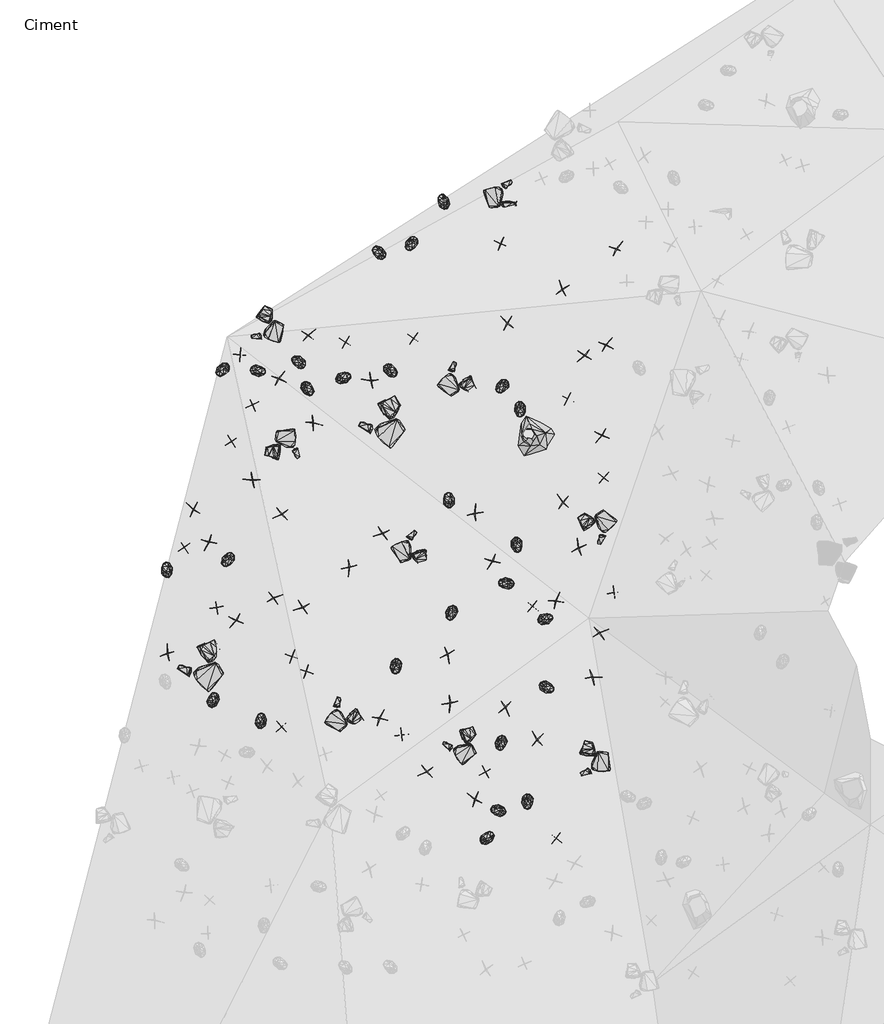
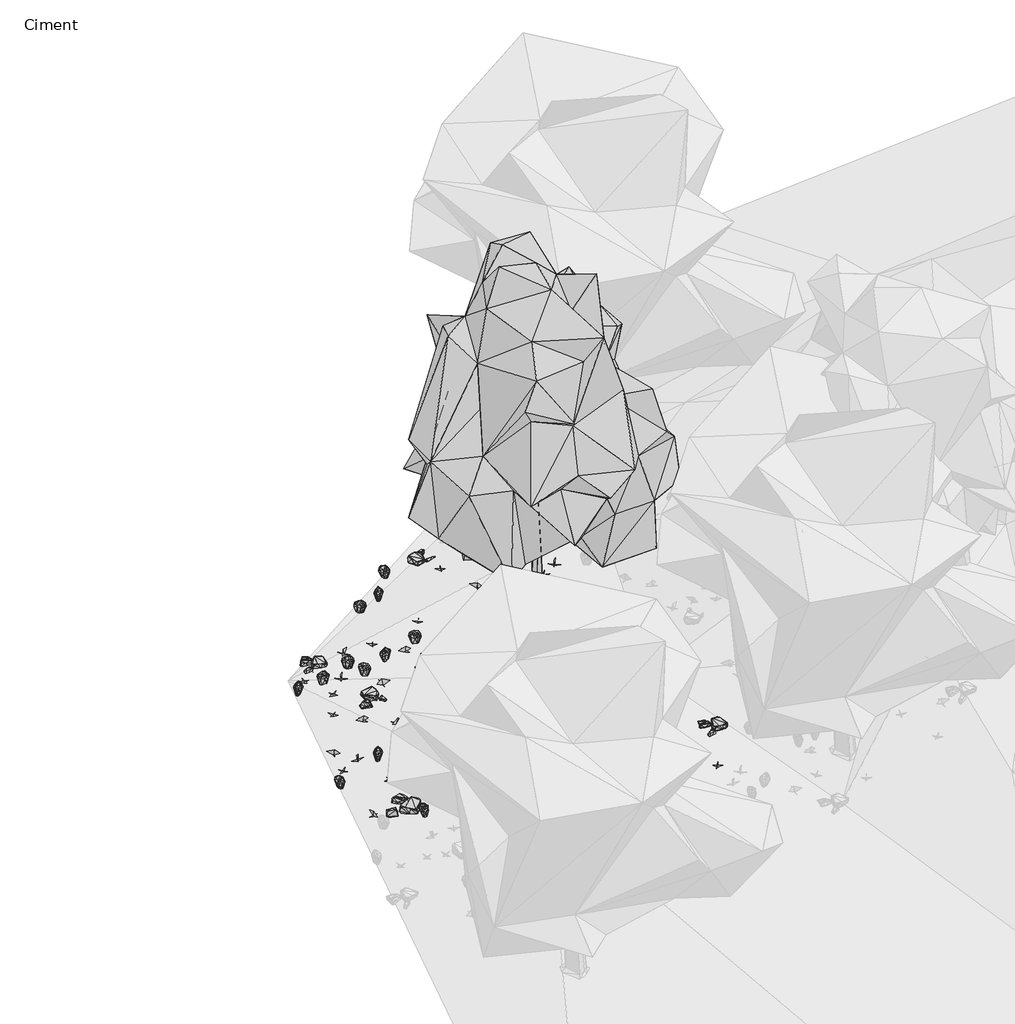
# One storey, part 20 of 30: 90 geographic elements.
"""IFC4 building model written with IfcOpenShell, lengths in millimetres."""

from ifc_helpers import new_model, si_unit, origin, place, context, project, spatial, transform, mapped, element, save
from components import enscape_assetdefinition_bush_025_fern_enscape_5718bf32, enscape_assetdefinition_bush_054_plant_09_version_2_enscape_7b546a12, enscape_assetdefinition_bush_062_plant_09_version_3_enscape_ccf8c8eb, enscape_assetdefinition_deciduous_tree_024_elm_enscape_8f9d8ef3, enscape_assetdefinition_stone_013_group_enscape_516da325, enscape_assetdefinition_stone_013_group_enscape_db9b3e91

model = new_model("IFC4")

# Units and contexts
model_context = context("Model", 3, world=origin())
ifc_project = project(units=[si_unit("LENGTHUNIT", "METRE", prefix="MILLI")], contexts=[model_context])

# Site, building, storey
site = spatial("IfcSite", under=ifc_project)
building = spatial("IfcBuilding", under=site)
storey = spatial("IfcBuildingStorey", under=building, Name="Ciment", Elevation=-1500.0)

# Geographic elements
placement = place(None, origin())
enscape_assetdefinition_bush_025_fern_enscape_shape = enscape_assetdefinition_bush_025_fern_enscape_5718bf32(model_context)
element("IfcGeographicElement", 1, ObjectType="Enscape AssetDefinition - Bush 025 Fern : Enscape AssetDefinition - Bush 025 Fern", at=placement, inside=storey, context=model_context, shape_type="MappedRepresentation", body=[
    mapped(enscape_assetdefinition_bush_025_fern_enscape_shape, transform((-19966.2132263, 5177.9174805, -2170.5815792), x_axis=(0.04909211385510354, -0.99879425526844, 0.0), y_axis=(0.99879425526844, 0.04909211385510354, 0.0), z_axis=(0.0, 0.0, 1.0))),
])
element("IfcGeographicElement", 2, ObjectType="Enscape AssetDefinition - Bush 025 Fern : Enscape AssetDefinition - Bush 025 Fern", at=placement, inside=storey, context=model_context, shape_type="MappedRepresentation", body=[
    mapped(enscape_assetdefinition_bush_025_fern_enscape_shape, transform((-18169.3611145, 2655.2200317, -2000.0), x_axis=(-0.9899264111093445, 0.14158284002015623, 0.0), y_axis=(-0.14158284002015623, -0.9899264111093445, 0.0), z_axis=(0.0, 0.0, 1.0))),
])
element("IfcGeographicElement", 3, ObjectType="Enscape AssetDefinition - Bush 025 Fern : Enscape AssetDefinition - Bush 025 Fern", at=placement, inside=storey, context=model_context, shape_type="MappedRepresentation", body=[
    mapped(enscape_assetdefinition_bush_025_fern_enscape_shape, transform((-21513.5097504, 10052.6981354, -2785.274744), x_axis=(0.7275675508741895, -0.6860360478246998, 0.0), y_axis=(0.6860360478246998, 0.7275675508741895, 0.0), z_axis=(0.0, 0.0, 1.0))),
])
element("IfcGeographicElement", 4, ObjectType="Enscape AssetDefinition - Bush 025 Fern : Enscape AssetDefinition - Bush 025 Fern", at=placement, inside=storey, context=model_context, shape_type="MappedRepresentation", body=[
    mapped(enscape_assetdefinition_bush_025_fern_enscape_shape, transform((-23983.1066132, 6885.5133057, -2998.8107681), x_axis=(-0.22570669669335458, 0.9741953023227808, 0.0), y_axis=(-0.9741953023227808, -0.22570669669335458, 0.0), z_axis=(0.0, 0.0, 1.0))),
])
element("IfcGeographicElement", 5, ObjectType="Enscape AssetDefinition - Bush 025 Fern : Enscape AssetDefinition - Bush 025 Fern", at=placement, inside=storey, context=model_context, shape_type="MappedRepresentation", body=[
    mapped(enscape_assetdefinition_bush_025_fern_enscape_shape, transform((-23165.5845642, 4595.2968597, -2642.5089836), x_axis=(0.2028222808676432, 0.9792155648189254, 0.0), y_axis=(-0.9792155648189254, 0.2028222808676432, 0.0), z_axis=(0.0, 0.0, 1.0))),
])
element("IfcGeographicElement", 6, ObjectType="Enscape AssetDefinition - Bush 025 Fern : Enscape AssetDefinition - Bush 025 Fern", at=placement, inside=storey, context=model_context, shape_type="MappedRepresentation", body=[
    mapped(enscape_assetdefinition_bush_025_fern_enscape_shape, transform((-17654.2816162, 2800.0676632, -2000.0), x_axis=(0.08820450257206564, -0.9961023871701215, 0.0), y_axis=(0.9961023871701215, 0.08820450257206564, 0.0), z_axis=(0.0, 0.0, 1.0))),
])
element("IfcGeographicElement", 7, ObjectType="Enscape AssetDefinition - Bush 025 Fern : Enscape AssetDefinition - Bush 025 Fern", at=placement, inside=storey, context=model_context, shape_type="MappedRepresentation", body=[
    mapped(enscape_assetdefinition_bush_025_fern_enscape_shape, transform((-20054.4815063, 10370.2001572, -2617.436409), x_axis=(0.8332619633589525, -0.5528783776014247, 0.0), y_axis=(0.5528783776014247, 0.8332619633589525, 0.0), z_axis=(0.0, 0.0, 1.0))),
])
element("IfcGeographicElement", 8, ObjectType="Enscape AssetDefinition - Bush 025 Fern : Enscape AssetDefinition - Bush 025 Fern", at=placement, inside=storey, context=model_context, shape_type="MappedRepresentation", body=[
    mapped(enscape_assetdefinition_bush_025_fern_enscape_shape, transform((-18030.796051, 6645.5593109, -2175.6153107), x_axis=(-0.9997258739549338, 0.023413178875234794, 0.0), y_axis=(-0.023413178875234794, -0.9997258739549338, 0.0), z_axis=(0.0, 0.0, 1.0))),
])
element("IfcGeographicElement", 9, ObjectType="Enscape AssetDefinition - Bush 025 Fern : Enscape AssetDefinition - Bush 025 Fern", at=placement, inside=storey, context=model_context, shape_type="MappedRepresentation", body=[
    mapped(enscape_assetdefinition_bush_025_fern_enscape_shape, transform((-20875.9117126, 10248.4178543, -2714.3516541), x_axis=(0.8916836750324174, 0.4526590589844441, 0.0), y_axis=(-0.4526590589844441, 0.8916836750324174, 0.0), z_axis=(0.0, 0.0, 1.0))),
])
element("IfcGeographicElement", 10, ObjectType="Enscape AssetDefinition - Bush 025 Fern : Enscape AssetDefinition - Bush 025 Fern", at=placement, inside=storey, context=model_context, shape_type="MappedRepresentation", body=[
    mapped(enscape_assetdefinition_bush_025_fern_enscape_shape, transform((-17308.8817596, 4807.1155548, -2000.0), x_axis=(0.9540241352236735, -0.29972979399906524, 0.0), y_axis=(0.29972979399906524, 0.9540241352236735, 0.0), z_axis=(0.0, 0.0, 1.0))),
])
element("IfcGeographicElement", 11, ObjectType="Enscape AssetDefinition - Bush 025 Fern : Enscape AssetDefinition - Bush 025 Fern", at=placement, inside=storey, context=model_context, shape_type="MappedRepresentation", body=[
    mapped(enscape_assetdefinition_bush_025_fern_enscape_shape, transform((-18351.2954712, 2169.511795, -2000.0), x_axis=(0.6766495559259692, 0.7363052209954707, 0.0), y_axis=(-0.7363052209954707, 0.6766495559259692, 0.0), z_axis=(0.0, 0.0, 1.0))),
])
element("IfcGeographicElement", 12, ObjectType="Enscape AssetDefinition - Bush 025 Fern : Enscape AssetDefinition - Bush 025 Fern", at=placement, inside=storey, context=model_context, shape_type="MappedRepresentation", body=[
    mapped(enscape_assetdefinition_bush_025_fern_enscape_shape, transform((-23015.2339935, 10390.6459808, -2984.2538834), x_axis=(-0.6030650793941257, -0.7976919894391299, 0.0), y_axis=(0.7976919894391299, -0.6030650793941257, 0.0), z_axis=(0.0, 0.0, 1.0))),
])
element("IfcGeographicElement", 13, ObjectType="Enscape AssetDefinition - Bush 025 Fern : Enscape AssetDefinition - Bush 025 Fern", at=placement, inside=storey, context=model_context, shape_type="MappedRepresentation", body=[
    mapped(enscape_assetdefinition_bush_025_fern_enscape_shape, transform((-18120.9049225, 3831.7372799, -2000.0), x_axis=(-0.15343056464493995, -0.9881594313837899, 0.0), y_axis=(0.9881594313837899, -0.15343056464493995, 0.0), z_axis=(0.0, 0.0, 1.0))),
])
element("IfcGeographicElement", 14, ObjectType="Enscape AssetDefinition - Bush 025 Fern : Enscape AssetDefinition - Bush 025 Fern", at=placement, inside=storey, context=model_context, shape_type="MappedRepresentation", body=[
    mapped(enscape_assetdefinition_bush_025_fern_enscape_shape, transform((-22329.460144, 4230.4344177, -2407.6538086), x_axis=(-0.07052624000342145, 0.9975099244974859, 0.0), y_axis=(-0.9975099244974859, -0.07052624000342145, 0.0), z_axis=(0.0, 0.0, 1.0))),
])
element("IfcGeographicElement", 15, ObjectType="Enscape AssetDefinition - Bush 025 Fern : Enscape AssetDefinition - Bush 025 Fern", at=placement, inside=storey, context=model_context, shape_type="MappedRepresentation", body=[
    mapped(enscape_assetdefinition_bush_025_fern_enscape_shape, transform((-22380.2375793, 10369.8368073, -2895.5817223), x_axis=(0.99706000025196, -0.0766247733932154, 0.0), y_axis=(0.0766247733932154, 0.99706000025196, 0.0), z_axis=(0.0, 0.0, 1.0))),
])
element("IfcGeographicElement", 16, ObjectType="Enscape AssetDefinition - Bush 025 Fern : Enscape AssetDefinition - Bush 025 Fern", at=placement, inside=storey, context=model_context, shape_type="MappedRepresentation", body=[
    mapped(enscape_assetdefinition_bush_025_fern_enscape_shape, transform((-17784.0480804, 9691.5569305, -2306.3952923), x_axis=(0.16694033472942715, -0.9859669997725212, 0.0), y_axis=(0.9859669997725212, 0.16694033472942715, 0.0), z_axis=(0.0, 0.0, 1.0))),
])
element("IfcGeographicElement", 17, ObjectType="Enscape AssetDefinition - Bush 025 Fern : Enscape AssetDefinition - Bush 025 Fern", at=placement, inside=storey, context=model_context, shape_type="MappedRepresentation", body=[
    mapped(enscape_assetdefinition_bush_025_fern_enscape_shape, transform((-20259.7064972, 12459.6452713, -3000.0), x_axis=(-0.7864539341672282, 0.6176489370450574, 0.0), y_axis=(-0.6176489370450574, -0.7864539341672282, 0.0), z_axis=(0.0, 0.0, 1.0))),
])
element("IfcGeographicElement", 18, ObjectType="Enscape AssetDefinition - Bush 025 Fern : Enscape AssetDefinition - Bush 025 Fern", at=placement, inside=storey, context=model_context, shape_type="MappedRepresentation", body=[
    mapped(enscape_assetdefinition_bush_025_fern_enscape_shape, transform((-19124.7825623, 13353.7740707, -2999.9995232), x_axis=(-0.500476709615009, 0.865750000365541, 0.0), y_axis=(-0.865750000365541, -0.500476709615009, 0.0), z_axis=(0.0, 0.0, 1.0))),
])
element("IfcGeographicElement", 19, ObjectType="Enscape AssetDefinition - Bush 025 Fern : Enscape AssetDefinition - Bush 025 Fern", at=placement, inside=storey, context=model_context, shape_type="MappedRepresentation", body=[
    mapped(enscape_assetdefinition_bush_025_fern_enscape_shape, transform((-19696.9680786, 12605.9465408, -2961.1406326), x_axis=(-0.45135079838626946, -0.8923466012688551, 0.0), y_axis=(0.8923466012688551, -0.45135079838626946, 0.0), z_axis=(0.0, 0.0, 1.0))),
])
element("IfcGeographicElement", 20, ObjectType="Enscape AssetDefinition - Bush 025 Fern : Enscape AssetDefinition - Bush 025 Fern", at=placement, inside=storey, context=model_context, shape_type="MappedRepresentation", body=[
    mapped(enscape_assetdefinition_bush_025_fern_enscape_shape, transform((-19027.9655457, 8106.7914963, -2393.6152458), x_axis=(-0.23654174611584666, 0.971621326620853, 0.0), y_axis=(-0.971621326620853, -0.23654174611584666, 0.0), z_axis=(0.0, 0.0, 1.0))),
])
element("IfcGeographicElement", 21, ObjectType="Enscape AssetDefinition - Bush 025 Fern : Enscape AssetDefinition - Bush 025 Fern", at=placement, inside=storey, context=model_context, shape_type="MappedRepresentation", body=[
    mapped(enscape_assetdefinition_bush_025_fern_enscape_shape, transform((-22921.4305878, 7053.2641411, -2741.9428825), x_axis=(-0.522619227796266, -0.8525662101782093, 0.0), y_axis=(0.8525662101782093, -0.522619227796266, 0.0), z_axis=(0.0, 0.0, 1.0))),
])
element("IfcGeographicElement", 22, ObjectType="Enscape AssetDefinition - Bush 025 Fern : Enscape AssetDefinition - Bush 025 Fern", at=placement, inside=storey, context=model_context, shape_type="MappedRepresentation", body=[
    mapped(enscape_assetdefinition_bush_025_fern_enscape_shape, transform((-18992.5422668, 6117.4240112, -2194.0617561), x_axis=(-0.24858450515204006, -0.9686102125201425, 0.0), y_axis=(0.9686102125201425, -0.24858450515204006, 0.0), z_axis=(0.0, 0.0, 1.0))),
])
element("IfcGeographicElement", 23, ObjectType="Enscape AssetDefinition - Bush 025 Fern : Enscape AssetDefinition - Bush 025 Fern", at=placement, inside=storey, context=model_context, shape_type="MappedRepresentation", body=[
    mapped(enscape_assetdefinition_bush_025_fern_enscape_shape, transform((-18101.9153595, 10098.2341766, -2363.1939888), x_axis=(-0.5344133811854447, -0.8452232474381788, 0.0), y_axis=(0.8452232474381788, -0.5344133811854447, 0.0), z_axis=(0.0, 0.0, 1.0))),
])
element("IfcGeographicElement", 24, ObjectType="Enscape AssetDefinition - Bush 025 Fern : Enscape AssetDefinition - Bush 025 Fern", at=placement, inside=storey, context=model_context, shape_type="MappedRepresentation", body=[
    mapped(enscape_assetdefinition_bush_025_fern_enscape_shape, transform((-17843.0099487, 7307.8050613, -2212.3680115), x_axis=(0.24585016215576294, -0.9693078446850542, 0.0), y_axis=(0.9693078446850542, 0.24585016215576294, 0.0), z_axis=(0.0, 0.0, 1.0))),
])
element("IfcGeographicElement", 25, ObjectType="Enscape AssetDefinition - Bush 025 Fern : Enscape AssetDefinition - Bush 025 Fern", at=placement, inside=storey, context=model_context, shape_type="MappedRepresentation", body=[
    mapped(enscape_assetdefinition_bush_025_fern_enscape_shape, transform((-21675.5714417, 10536.4170074, -2825.9842396), x_axis=(-0.871847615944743, 0.48977722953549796, 0.0), y_axis=(-0.48977722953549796, -0.871847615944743, 0.0), z_axis=(0.0, 0.0, 1.0))),
])
element("IfcGeographicElement", 26, ObjectType="Enscape AssetDefinition - Bush 025 Fern : Enscape AssetDefinition - Bush 025 Fern", at=placement, inside=storey, context=model_context, shape_type="MappedRepresentation", body=[
    mapped(enscape_assetdefinition_bush_025_fern_enscape_shape, transform((-17330.4710388, 6011.3844872, -2056.096077), x_axis=(0.9034495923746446, 0.42869433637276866, 0.0), y_axis=(-0.42869433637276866, 0.9034495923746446, 0.0), z_axis=(0.0, 0.0, 1.0))),
])
enscape_assetdefinition_bush_054_plant_09_version_2_enscape_shape = enscape_assetdefinition_bush_054_plant_09_version_2_enscape_7b546a12(model_context)
element("IfcGeographicElement", 27, ObjectType="Enscape AssetDefinition - Bush 054 Plant 09, Version 2 : Enscape AssetDefinition - Bush 054 Plant 09, Version 2", at=placement, inside=storey, context=model_context, shape_type="MappedRepresentation", body=[
    mapped(enscape_assetdefinition_bush_054_plant_09_version_2_enscape_shape, transform((-16939.2280579, 9884.8953247, -2209.6159458), x_axis=(-0.9217026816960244, 0.38789710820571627, 0.0), y_axis=(-0.38789710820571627, -0.9217026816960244, 0.0), z_axis=(0.0, 0.0, 1.0))),
])
element("IfcGeographicElement", 28, ObjectType="Enscape AssetDefinition - Bush 054 Plant 09, Version 2 : Enscape AssetDefinition - Bush 054 Plant 09, Version 2", at=placement, inside=storey, context=model_context, shape_type="MappedRepresentation", body=[
    mapped(enscape_assetdefinition_bush_054_plant_09_version_2_enscape_shape, transform((-23105.7071686, 6214.9586678, -2733.5138321), x_axis=(-0.21573591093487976, 0.9764517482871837, 0.0), y_axis=(-0.9764517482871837, -0.21573591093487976, 0.0), z_axis=(0.0, 0.0, 1.0))),
])
element("IfcGeographicElement", 29, ObjectType="Enscape AssetDefinition - Bush 054 Plant 09, Version 2 : Enscape AssetDefinition - Bush 054 Plant 09, Version 2", at=placement, inside=storey, context=model_context, shape_type="MappedRepresentation", body=[
    mapped(enscape_assetdefinition_bush_054_plant_09_version_2_enscape_shape, transform((-16314.1136169, 8494.7967529, -2072.8163719), x_axis=(0.7941196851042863, -0.6077614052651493, 0.0), y_axis=(0.6077614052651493, 0.7941196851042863, 0.0), z_axis=(0.0, 0.0, 1.0))),
])
element("IfcGeographicElement", 30, ObjectType="Enscape AssetDefinition - Bush 054 Plant 09, Version 2 : Enscape AssetDefinition - Bush 054 Plant 09, Version 2", at=placement, inside=storey, context=model_context, shape_type="MappedRepresentation", body=[
    mapped(enscape_assetdefinition_bush_054_plant_09_version_2_enscape_shape, transform((-18126.2989044, 12605.5603027, -2732.0318222), x_axis=(0.9354552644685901, -0.35344511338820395, 0.0), y_axis=(0.35344511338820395, 0.9354552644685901, 0.0), z_axis=(0.0, 0.0, 1.0))),
])
element("IfcGeographicElement", 31, ObjectType="Enscape AssetDefinition - Bush 054 Plant 09, Version 2 : Enscape AssetDefinition - Bush 054 Plant 09, Version 2", at=placement, inside=storey, context=model_context, shape_type="MappedRepresentation", body=[
    mapped(enscape_assetdefinition_bush_054_plant_09_version_2_enscape_shape, transform((-22701.5647888, 10651.6656876, -2949.467659), x_axis=(0.9995554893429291, -0.029813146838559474, 0.0), y_axis=(0.029813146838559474, 0.9995554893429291, 0.0), z_axis=(0.0, 0.0, 1.0))),
])
element("IfcGeographicElement", 32, ObjectType="Enscape AssetDefinition - Bush 054 Plant 09, Version 2 : Enscape AssetDefinition - Bush 054 Plant 09, Version 2", at=placement, inside=storey, context=model_context, shape_type="MappedRepresentation", body=[
    mapped(enscape_assetdefinition_bush_054_plant_09_version_2_enscape_shape, transform((-21971.1723328, 4112.92696, -2309.5602989), x_axis=(0.7050988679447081, 0.7091090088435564, 0.0), y_axis=(-0.7091090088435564, 0.7050988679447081, 0.0), z_axis=(0.0, 0.0, 1.0))),
])
element("IfcGeographicElement", 33, ObjectType="Enscape AssetDefinition - Bush 054 Plant 09, Version 2 : Enscape AssetDefinition - Bush 054 Plant 09, Version 2", at=placement, inside=storey, context=model_context, shape_type="MappedRepresentation", body=[
    mapped(enscape_assetdefinition_bush_054_plant_09_version_2_enscape_shape, transform((-22849.3461609, 9128.1051636, -2859.6868515), x_axis=(0.8192915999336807, 0.5733770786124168, 0.0), y_axis=(-0.5733770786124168, 0.8192915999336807, 0.0), z_axis=(0.0, 0.0, 1.0))),
])
element("IfcGeographicElement", 34, ObjectType="Enscape AssetDefinition - Bush 054 Plant 09, Version 2 : Enscape AssetDefinition - Bush 054 Plant 09, Version 2", at=placement, inside=storey, context=model_context, shape_type="MappedRepresentation", body=[
    mapped(enscape_assetdefinition_bush_054_plant_09_version_2_enscape_shape, transform((-16131.1264038, 6479.2385101, -1882.7865124), x_axis=(0.17398721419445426, -0.9847479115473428, 0.0), y_axis=(0.9847479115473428, 0.17398721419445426, 0.0), z_axis=(0.0, 0.0, 1.0))),
])
element("IfcGeographicElement", 35, ObjectType="Enscape AssetDefinition - Bush 054 Plant 09, Version 2 : Enscape AssetDefinition - Bush 054 Plant 09, Version 2", at=placement, inside=storey, context=model_context, shape_type="MappedRepresentation", body=[
    mapped(enscape_assetdefinition_bush_054_plant_09_version_2_enscape_shape, transform((-17556.8580627, 6236.9961739, -2096.8775749), x_axis=(-0.8180064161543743, 0.5752090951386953, 0.0), y_axis=(-0.5752090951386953, -0.8180064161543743, 0.0), z_axis=(0.0, 0.0, 1.0))),
])
element("IfcGeographicElement", 36, ObjectType="Enscape AssetDefinition - Bush 054 Plant 09, Version 2 : Enscape AssetDefinition - Bush 054 Plant 09, Version 2", at=placement, inside=storey, context=model_context, shape_type="MappedRepresentation", body=[
    mapped(enscape_assetdefinition_bush_054_plant_09_version_2_enscape_shape, transform((-22476.3679504, 9778.1219482, -2841.3050175), x_axis=(-0.4731820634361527, 0.8809646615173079, 0.0), y_axis=(-0.8809646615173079, -0.4731820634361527, 0.0), z_axis=(0.0, 0.0, 1.0))),
])
element("IfcGeographicElement", 37, ObjectType="Enscape AssetDefinition - Bush 054 Plant 09, Version 2 : Enscape AssetDefinition - Bush 054 Plant 09, Version 2", at=placement, inside=storey, context=model_context, shape_type="MappedRepresentation", body=[
    mapped(enscape_assetdefinition_bush_054_plant_09_version_2_enscape_shape, transform((-23676.4583588, 7272.192955, -2946.7771053), x_axis=(-0.5962032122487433, 0.8028335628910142, 0.0), y_axis=(-0.8028335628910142, -0.5962032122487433, 0.0), z_axis=(0.0, 0.0, 1.0))),
])
element("IfcGeographicElement", 38, ObjectType="Enscape AssetDefinition - Bush 054 Plant 09, Version 2 : Enscape AssetDefinition - Bush 054 Plant 09, Version 2", at=placement, inside=storey, context=model_context, shape_type="MappedRepresentation", body=[
    mapped(enscape_assetdefinition_bush_054_plant_09_version_2_enscape_shape, transform((-17142.0326233, 2160.7148647, -2000.0), x_axis=(-0.826749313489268, 0.562570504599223, 0.0), y_axis=(-0.562570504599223, -0.826749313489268, 0.0), z_axis=(0.0, 0.0, 1.0))),
])
element("IfcGeographicElement", 39, ObjectType="Enscape AssetDefinition - Bush 054 Plant 09, Version 2 : Enscape AssetDefinition - Bush 054 Plant 09, Version 2", at=placement, inside=storey, context=model_context, shape_type="MappedRepresentation", body=[
    mapped(enscape_assetdefinition_bush_054_plant_09_version_2_enscape_shape, transform((-21790.8000946, 5353.2810211, -2345.3133106), x_axis=(0.9602435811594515, -0.27916350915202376, 0.0), y_axis=(0.27916350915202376, 0.9602435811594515, 0.0), z_axis=(0.0, 0.0, 1.0))),
])
element("IfcGeographicElement", 40, ObjectType="Enscape AssetDefinition - Bush 054 Plant 09, Version 2 : Enscape AssetDefinition - Bush 054 Plant 09, Version 2", at=placement, inside=storey, context=model_context, shape_type="MappedRepresentation", body=[
    mapped(enscape_assetdefinition_bush_054_plant_09_version_2_enscape_shape, transform((-21532.6786041, 5093.6260223, -2281.4264297), x_axis=(-0.9708825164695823, 0.23955612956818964, 0.0), y_axis=(-0.23955612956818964, -0.9708825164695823, 0.0), z_axis=(0.0, 0.0, 1.0))),
])
element("IfcGeographicElement", 41, ObjectType="Enscape AssetDefinition - Bush 054 Plant 09, Version 2 : Enscape AssetDefinition - Bush 054 Plant 09, Version 2", at=placement, inside=storey, context=model_context, shape_type="MappedRepresentation", body=[
    mapped(enscape_assetdefinition_bush_054_plant_09_version_2_enscape_shape, transform((-20851.600647, 10874.7062683, -2737.9596233), x_axis=(0.8807373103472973, -0.47360509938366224, 0.0), y_axis=(0.47360509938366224, 0.8807373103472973, 0.0), z_axis=(0.0, 0.0, 1.0))),
])
element("IfcGeographicElement", 42, ObjectType="Enscape AssetDefinition - Bush 054 Plant 09, Version 2 : Enscape AssetDefinition - Bush 054 Plant 09, Version 2", at=placement, inside=storey, context=model_context, shape_type="MappedRepresentation", body=[
    mapped(enscape_assetdefinition_bush_054_plant_09_version_2_enscape_shape, transform((-19866.2948608, 3978.5649776, -2038.0582809), x_axis=(0.15277195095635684, -0.9882614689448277, 0.0), y_axis=(0.9882614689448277, 0.15277195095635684, 0.0), z_axis=(0.0, 0.0, 1.0))),
])
element("IfcGeographicElement", 43, ObjectType="Enscape AssetDefinition - Bush 054 Plant 09, Version 2 : Enscape AssetDefinition - Bush 054 Plant 09, Version 2", at=placement, inside=storey, context=model_context, shape_type="MappedRepresentation", body=[
    mapped(enscape_assetdefinition_bush_054_plant_09_version_2_enscape_shape, transform((-19655.4985046, 10944.1823959, -2592.2532082), x_axis=(0.8531275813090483, -0.5217023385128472, 0.0), y_axis=(0.5217023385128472, 0.8531275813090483, 0.0), z_axis=(0.0, 0.0, 1.0))),
])
element("IfcGeographicElement", 44, ObjectType="Enscape AssetDefinition - Bush 054 Plant 09, Version 2 : Enscape AssetDefinition - Bush 054 Plant 09, Version 2", at=placement, inside=storey, context=model_context, shape_type="MappedRepresentation", body=[
    mapped(enscape_assetdefinition_bush_054_plant_09_version_2_enscape_shape, transform((-18389.6331787, 3321.6495514, -2000.0), x_axis=(0.857517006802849, 0.5144556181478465, 0.0), y_axis=(-0.5144556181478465, 0.857517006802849, 0.0), z_axis=(0.0, 0.0, 1.0))),
])
enscape_assetdefinition_bush_062_plant_09_version_3_enscape_shape = enscape_assetdefinition_bush_062_plant_09_version_3_enscape_ccf8c8eb(model_context)
element("IfcGeographicElement", 45, ObjectType="Enscape AssetDefinition - Bush 062 Plant 09, Version 3 : Enscape AssetDefinition - Bush 062 Plant 09, Version 3", at=placement, inside=storey, context=model_context, shape_type="MappedRepresentation", body=[
    mapped(enscape_assetdefinition_bush_062_plant_09_version_3_enscape_shape, transform((-17484.8709106, 3902.7080536, -2000.0), x_axis=(0.5839542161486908, 0.8117865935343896, 0.0), y_axis=(-0.8117865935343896, 0.5839542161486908, 0.0), z_axis=(0.0, 0.0, 1.0))),
])
element("IfcGeographicElement", 46, ObjectType="Enscape AssetDefinition - Bush 062 Plant 09, Version 3 : Enscape AssetDefinition - Bush 062 Plant 09, Version 3", at=placement, inside=storey, context=model_context, shape_type="MappedRepresentation", body=[
    mapped(enscape_assetdefinition_bush_062_plant_09_version_3_enscape_shape, transform((-16653.8505554, 10634.0532303, -2206.0010433), x_axis=(-0.8919055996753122, 0.4522216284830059, 0.0), y_axis=(-0.4522216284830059, -0.8919055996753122, 0.0), z_axis=(0.0, 0.0, 1.0))),
])
element("IfcGeographicElement", 47, ObjectType="Enscape AssetDefinition - Bush 062 Plant 09, Version 3 : Enscape AssetDefinition - Bush 062 Plant 09, Version 3", at=placement, inside=storey, context=model_context, shape_type="MappedRepresentation", body=[
    mapped(enscape_assetdefinition_bush_062_plant_09_version_3_enscape_shape, transform((-18012.556076, 11219.8848724, -2399.7788429), x_axis=(0.4024480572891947, 0.915442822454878, 0.0), y_axis=(-0.915442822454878, 0.4024480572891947, 0.0), z_axis=(0.0, 0.0, 1.0))),
])
element("IfcGeographicElement", 48, ObjectType="Enscape AssetDefinition - Bush 062 Plant 09, Version 3 : Enscape AssetDefinition - Bush 062 Plant 09, Version 3", at=placement, inside=storey, context=model_context, shape_type="MappedRepresentation", body=[
    mapped(enscape_assetdefinition_bush_062_plant_09_version_3_enscape_shape, transform((-18271.2173462, 7017.6634789, -2232.7237129), x_axis=(-0.9886816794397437, 0.15002845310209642, 0.0), y_axis=(-0.15002845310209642, -0.9886816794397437, 0.0), z_axis=(0.0, 0.0, 1.0))),
])
element("IfcGeographicElement", 49, ObjectType="Enscape AssetDefinition - Bush 062 Plant 09, Version 3 : Enscape AssetDefinition - Bush 062 Plant 09, Version 3", at=placement, inside=storey, context=model_context, shape_type="MappedRepresentation", body=[
    mapped(enscape_assetdefinition_bush_062_plant_09_version_3_enscape_shape, transform((-22011.297226, 10247.2467422, -2854.6419144), x_axis=(0.9611212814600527, -0.2761265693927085, 0.0), y_axis=(0.2761265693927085, 0.9611212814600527, 0.0), z_axis=(0.0, 0.0, 1.0))),
])
element("IfcGeographicElement", 50, ObjectType="Enscape AssetDefinition - Bush 062 Plant 09, Version 3 : Enscape AssetDefinition - Bush 062 Plant 09, Version 3", at=placement, inside=storey, context=model_context, shape_type="MappedRepresentation", body=[
    mapped(enscape_assetdefinition_bush_062_plant_09_version_3_enscape_shape, transform((-21495.2220917, 11007.1334839, -2823.5840797), x_axis=(0.8674404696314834, -0.4975409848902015, 0.0), y_axis=(0.4975409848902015, 0.8674404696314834, 0.0), z_axis=(0.0, 0.0, 1.0))),
])
element("IfcGeographicElement", 51, ObjectType="Enscape AssetDefinition - Bush 062 Plant 09, Version 3 : Enscape AssetDefinition - Bush 062 Plant 09, Version 3", at=placement, inside=storey, context=model_context, shape_type="MappedRepresentation", body=[
    mapped(enscape_assetdefinition_bush_062_plant_09_version_3_enscape_shape, transform((-21402.8015137, 9456.1090469, -2725.7897854), x_axis=(0.1425747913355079, -0.989784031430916, 0.0), y_axis=(0.989784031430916, 0.1425747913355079, 0.0), z_axis=(0.0, 0.0, 1.0))),
])
element("IfcGeographicElement", 52, ObjectType="Enscape AssetDefinition - Bush 062 Plant 09, Version 3 : Enscape AssetDefinition - Bush 062 Plant 09, Version 3", at=placement, inside=storey, context=model_context, shape_type="MappedRepresentation", body=[
    mapped(enscape_assetdefinition_bush_062_plant_09_version_3_enscape_shape, transform((-17034.4924927, 8072.7891922, -2144.4063187), x_axis=(0.5144884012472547, 0.8574973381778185, 0.0), y_axis=(-0.8574973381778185, 0.5144884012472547, 0.0), z_axis=(0.0, 0.0, 1.0))),
])
element("IfcGeographicElement", 53, ObjectType="Enscape AssetDefinition - Bush 062 Plant 09, Version 3 : Enscape AssetDefinition - Bush 062 Plant 09, Version 3", at=placement, inside=storey, context=model_context, shape_type="MappedRepresentation", body=[
    mapped(enscape_assetdefinition_bush_062_plant_09_version_3_enscape_shape, transform((-16265.0947571, 10840.3987885, -2166.4574146), x_axis=(0.9520595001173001, -0.305912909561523, 0.0), y_axis=(0.305912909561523, 0.9520595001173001, 0.0), z_axis=(0.0, 0.0, 1.0))),
])
element("IfcGeographicElement", 54, ObjectType="Enscape AssetDefinition - Bush 062 Plant 09, Version 3 : Enscape AssetDefinition - Bush 062 Plant 09, Version 3", at=placement, inside=storey, context=model_context, shape_type="MappedRepresentation", body=[
    mapped(enscape_assetdefinition_bush_062_plant_09_version_3_enscape_shape, transform((-18031.5933228, 4450.191021, -2000.0), x_axis=(-0.6716106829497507, -0.7409042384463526, 0.0), y_axis=(0.7409042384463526, -0.6716106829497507, 0.0), z_axis=(0.0, 0.0, 1.0))),
])
element("IfcGeographicElement", 55, ObjectType="Enscape AssetDefinition - Bush 062 Plant 09, Version 3 : Enscape AssetDefinition - Bush 062 Plant 09, Version 3", at=placement, inside=storey, context=model_context, shape_type="MappedRepresentation", body=[
    mapped(enscape_assetdefinition_bush_062_plant_09_version_3_enscape_shape, transform((-17044.2848206, 11816.8773651, -2365.7560349), x_axis=(0.7568083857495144, 0.6536368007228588, 0.0), y_axis=(-0.6536368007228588, 0.7568083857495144, 0.0), z_axis=(0.0, 0.0, 1.0))),
])
element("IfcGeographicElement", 56, ObjectType="Enscape AssetDefinition - Bush 062 Plant 09, Version 3 : Enscape AssetDefinition - Bush 062 Plant 09, Version 3", at=placement, inside=storey, context=model_context, shape_type="MappedRepresentation", body=[
    mapped(enscape_assetdefinition_bush_062_plant_09_version_3_enscape_shape, transform((-20780.5786133, 6911.0603333, -2413.2487774), x_axis=(-0.949756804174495, -0.3129888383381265, 0.0), y_axis=(0.3129888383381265, -0.949756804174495, 0.0), z_axis=(0.0, 0.0, 1.0))),
])
element("IfcGeographicElement", 57, ObjectType="Enscape AssetDefinition - Bush 062 Plant 09, Version 3 : Enscape AssetDefinition - Bush 062 Plant 09, Version 3", at=placement, inside=storey, context=model_context, shape_type="MappedRepresentation", body=[
    mapped(enscape_assetdefinition_bush_062_plant_09_version_3_enscape_shape, transform((-16076.0612488, 12524.4836807, -2411.6694927), x_axis=(0.966172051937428, -0.2578983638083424, 0.0), y_axis=(0.2578983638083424, 0.966172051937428, 0.0), z_axis=(0.0, 0.0, 1.0))),
])
element("IfcGeographicElement", 58, ObjectType="Enscape AssetDefinition - Bush 062 Plant 09, Version 3 : Enscape AssetDefinition - Bush 062 Plant 09, Version 3", at=placement, inside=storey, context=model_context, shape_type="MappedRepresentation", body=[
    mapped(enscape_assetdefinition_bush_062_plant_09_version_3_enscape_shape, transform((-21977.7965546, 7848.736763, -2602.3180485), x_axis=(-0.7319858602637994, 0.6813198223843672, 0.0), y_axis=(-0.6813198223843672, -0.7319858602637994, 0.0), z_axis=(0.0, 0.0, 1.0))),
])
element("IfcGeographicElement", 59, ObjectType="Enscape AssetDefinition - Bush 062 Plant 09, Version 3 : Enscape AssetDefinition - Bush 062 Plant 09, Version 3", at=placement, inside=storey, context=model_context, shape_type="MappedRepresentation", body=[
    mapped(enscape_assetdefinition_bush_062_plant_09_version_3_enscape_shape, transform((-23250.2059937, 7354.2728424, -2844.6121216), x_axis=(-0.9950061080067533, 0.09981405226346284, 0.0), y_axis=(-0.09981405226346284, -0.9950061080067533, 0.0), z_axis=(0.0, 0.0, 1.0))),
])
element("IfcGeographicElement", 60, ObjectType="Enscape AssetDefinition - Bush 062 Plant 09, Version 3 : Enscape AssetDefinition - Bush 062 Plant 09, Version 3", at=placement, inside=storey, context=model_context, shape_type="MappedRepresentation", body=[
    mapped(enscape_assetdefinition_bush_062_plant_09_version_3_enscape_shape, transform((-16346.7407227, 9230.7100296, -2108.1619263), x_axis=(-0.9526038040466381, 0.30421372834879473, 0.0), y_axis=(-0.30421372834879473, -0.9526038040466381, 0.0), z_axis=(0.0, 0.0, 1.0))),
])
element("IfcGeographicElement", 61, ObjectType="Enscape AssetDefinition - Bush 062 Plant 09, Version 3 : Enscape AssetDefinition - Bush 062 Plant 09, Version 3", at=placement, inside=storey, context=model_context, shape_type="MappedRepresentation", body=[
    mapped(enscape_assetdefinition_bush_062_plant_09_version_3_enscape_shape, transform((-16494.4629669, 4995.7919121, -2000.0), x_axis=(0.38121197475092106, -0.9244876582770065, 0.0), y_axis=(0.9244876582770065, 0.38121197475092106, 0.0), z_axis=(0.0, 0.0, 1.0))),
])
element("IfcGeographicElement", 62, ObjectType="Enscape AssetDefinition - Bush 062 Plant 09, Version 3 : Enscape AssetDefinition - Bush 062 Plant 09, Version 3", at=placement, inside=storey, context=model_context, shape_type="MappedRepresentation", body=[
    mapped(enscape_assetdefinition_bush_062_plant_09_version_3_enscape_shape, transform((-19431.2419891, 3323.526144, -2000.0), x_axis=(-0.7359851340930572, 0.6769976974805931, 0.0), y_axis=(-0.6769976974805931, -0.7359851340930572, 0.0), z_axis=(0.0, 0.0, 1.0))),
])
element("IfcGeographicElement", 63, ObjectType="Enscape AssetDefinition - Bush 062 Plant 09, Version 3 : Enscape AssetDefinition - Bush 062 Plant 09, Version 3", at=placement, inside=storey, context=model_context, shape_type="MappedRepresentation", body=[
    mapped(enscape_assetdefinition_bush_062_plant_09_version_3_enscape_shape, transform((-17147.5753784, 6338.1233215, -2076.1537552), x_axis=(0.9999473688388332, 0.0102596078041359, 0.0), y_axis=(-0.0102596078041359, 0.9999473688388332, 0.0), z_axis=(0.0, 0.0, 1.0))),
])
element("IfcGeographicElement", 64, ObjectType="Enscape AssetDefinition - Bush 062 Plant 09, Version 3 : Enscape AssetDefinition - Bush 062 Plant 09, Version 3", at=placement, inside=storey, context=model_context, shape_type="MappedRepresentation", body=[
    mapped(enscape_assetdefinition_bush_062_plant_09_version_3_enscape_shape, transform((-21610.7902527, 6210.6170654, -2403.7084579), x_axis=(-0.6459022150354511, 0.7634201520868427, 0.0), y_axis=(-0.7634201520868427, -0.6459022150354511, 0.0), z_axis=(0.0, 0.0, 1.0))),
])
element("IfcGeographicElement", 65, ObjectType="Enscape AssetDefinition - Bush 062 Plant 09, Version 3 : Enscape AssetDefinition - Bush 062 Plant 09, Version 3", at=placement, inside=storey, context=model_context, shape_type="MappedRepresentation", body=[
    mapped(enscape_assetdefinition_bush_062_plant_09_version_3_enscape_shape, transform((-20208.8928223, 7509.718895, -2431.9329262), x_axis=(-0.6378955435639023, 0.7701228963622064, 0.0), y_axis=(-0.7701228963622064, -0.6378955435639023, 0.0), z_axis=(0.0, 0.0, 1.0))),
])
element("IfcGeographicElement", 66, ObjectType="Enscape AssetDefinition - Bush 062 Plant 09, Version 3 : Enscape AssetDefinition - Bush 062 Plant 09, Version 3", at=placement, inside=storey, context=model_context, shape_type="MappedRepresentation", body=[
    mapped(enscape_assetdefinition_bush_062_plant_09_version_3_enscape_shape, transform((-22099.9717712, 6388.6051178, -2491.1463261), x_axis=(0.6913868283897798, -0.722484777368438, 0.0), y_axis=(0.722484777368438, 0.6913868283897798, 0.0), z_axis=(0.0, 0.0, 1.0))),
])
element("IfcGeographicElement", 67, ObjectType="Enscape AssetDefinition - Bush 062 Plant 09, Version 3 : Enscape AssetDefinition - Bush 062 Plant 09, Version 3", at=placement, inside=storey, context=model_context, shape_type="MappedRepresentation", body=[
    mapped(enscape_assetdefinition_bush_062_plant_09_version_3_enscape_shape, transform((-23529.0489197, 7945.8885193, -2953.722477), x_axis=(0.33685780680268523, 0.941555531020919, 0.0), y_axis=(-0.941555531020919, 0.33685780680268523, 0.0), z_axis=(0.0, 0.0, 1.0))),
])
element("IfcGeographicElement", 68, ObjectType="Enscape AssetDefinition - Bush 062 Plant 09, Version 3 : Enscape AssetDefinition - Bush 062 Plant 09, Version 3", at=placement, inside=storey, context=model_context, shape_type="MappedRepresentation", body=[
    mapped(enscape_assetdefinition_bush_062_plant_09_version_3_enscape_shape, transform((-20412.7540588, 10203.9108276, -2654.8945904), x_axis=(-0.28997171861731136, 0.9570352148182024, 0.0), y_axis=(-0.9570352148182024, -0.28997171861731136, 0.0), z_axis=(0.0, 0.0, 1.0))),
])
element("IfcGeographicElement", 69, ObjectType="Enscape AssetDefinition - Bush 062 Plant 09, Version 3 : Enscape AssetDefinition - Bush 062 Plant 09, Version 3", at=placement, inside=storey, context=model_context, shape_type="MappedRepresentation", body=[
    mapped(enscape_assetdefinition_bush_062_plant_09_version_3_enscape_shape, transform((-18585.5770111, 2854.05159, -2000.0), x_axis=(0.24441378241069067, 0.9696710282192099, 0.0), y_axis=(-0.9696710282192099, 0.24441378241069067, 0.0), z_axis=(0.0, 0.0, 1.0))),
])
element("IfcGeographicElement", 70, ObjectType="Enscape AssetDefinition - Bush 062 Plant 09, Version 3 : Enscape AssetDefinition - Bush 062 Plant 09, Version 3", at=placement, inside=storey, context=model_context, shape_type="MappedRepresentation", body=[
    mapped(enscape_assetdefinition_bush_062_plant_09_version_3_enscape_shape, transform((-23975.5935669, 5422.3518372, -2901.0567665), x_axis=(0.9055977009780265, 0.42413771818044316, 0.0), y_axis=(-0.42413771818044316, 0.9055977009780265, 0.0), z_axis=(0.0, 0.0, 1.0))),
])
element("IfcGeographicElement", 71, ObjectType="Enscape AssetDefinition - Bush 062 Plant 09, Version 3 : Enscape AssetDefinition - Bush 062 Plant 09, Version 3", at=placement, inside=storey, context=model_context, shape_type="MappedRepresentation", body=[
    mapped(enscape_assetdefinition_bush_062_plant_09_version_3_enscape_shape, transform((-16754.3067932, 7273.5209465, -2075.5987167), x_axis=(0.8419408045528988, 0.5395699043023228, 0.0), y_axis=(-0.5395699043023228, 0.8419408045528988, 0.0), z_axis=(0.0, 0.0, 1.0))),
])
element("IfcGeographicElement", 72, ObjectType="Enscape AssetDefinition - Bush 062 Plant 09, Version 3 : Enscape AssetDefinition - Bush 062 Plant 09, Version 3", at=placement, inside=storey, context=model_context, shape_type="MappedRepresentation", body=[
    mapped(enscape_assetdefinition_bush_062_plant_09_version_3_enscape_shape, transform((-19009.601593, 4525.8731842, -2029.630661), x_axis=(-0.9533925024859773, -0.3017328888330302, 0.0), y_axis=(0.3017328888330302, -0.9533925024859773, 0.0), z_axis=(0.0, 0.0, 1.0))),
])
element("IfcGeographicElement", 73, ObjectType="Enscape AssetDefinition - Bush 062 Plant 09, Version 3 : Enscape AssetDefinition - Bush 062 Plant 09, Version 3", at=placement, inside=storey, context=model_context, shape_type="MappedRepresentation", body=[
    mapped(enscape_assetdefinition_bush_062_plant_09_version_3_enscape_shape, transform((-22493.4577942, 8452.0072937, -2725.6040573), x_axis=(-0.30019434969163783, 0.9538780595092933, 0.0), y_axis=(-0.9538780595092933, -0.30019434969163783, 0.0), z_axis=(0.0, 0.0, 1.0))),
])
element("IfcGeographicElement", 74, ObjectType="Enscape AssetDefinition - Bush 062 Plant 09, Version 3 : Enscape AssetDefinition - Bush 062 Plant 09, Version 3", at=placement, inside=storey, context=model_context, shape_type="MappedRepresentation", body=[
    mapped(enscape_assetdefinition_bush_062_plant_09_version_3_enscape_shape, transform((-22775.8235931, 5979.5837402, -2634.865284), x_axis=(-0.9535399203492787, 0.3012666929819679, 0.0), y_axis=(-0.3012666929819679, -0.9535399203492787, 0.0), z_axis=(0.0, 0.0, 1.0))),
])
element("IfcGeographicElement", 75, ObjectType="Enscape AssetDefinition - Bush 062 Plant 09, Version 3 : Enscape AssetDefinition - Bush 062 Plant 09, Version 3", at=placement, inside=storey, context=model_context, shape_type="MappedRepresentation", body=[
    mapped(enscape_assetdefinition_bush_062_plant_09_version_3_enscape_shape, transform((-18573.2536316, 7881.1659813, -2327.5067806), x_axis=(0.9523644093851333, 0.30496234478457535, 0.0), y_axis=(-0.30496234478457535, 0.9523644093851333, 0.0), z_axis=(0.0, 0.0, 1.0))),
])
element("IfcGeographicElement", 76, ObjectType="Enscape AssetDefinition - Bush 062 Plant 09, Version 3 : Enscape AssetDefinition - Bush 062 Plant 09, Version 3", at=placement, inside=storey, context=model_context, shape_type="MappedRepresentation", body=[
    mapped(enscape_assetdefinition_bush_062_plant_09_version_3_enscape_shape, transform((-20241.9223785, 4279.630661, -2098.0937481), x_axis=(0.9960050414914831, -0.08929701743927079, 0.0), y_axis=(0.08929701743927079, 0.9960050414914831, 0.0), z_axis=(0.0, 0.0, 1.0))),
])
element("IfcGeographicElement", 77, ObjectType="Enscape AssetDefinition - Bush 062 Plant 09, Version 3 : Enscape AssetDefinition - Bush 062 Plant 09, Version 3", at=placement, inside=storey, context=model_context, shape_type="MappedRepresentation", body=[
    mapped(enscape_assetdefinition_bush_062_plant_09_version_3_enscape_shape, transform((-19050.3540039, 5382.4081421, -2121.9367981), x_axis=(-0.8378626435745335, -0.5458811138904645, 0.0), y_axis=(0.5458811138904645, -0.8378626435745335, 0.0), z_axis=(0.0, 0.0, 1.0))),
])
element("IfcGeographicElement", 78, ObjectType="Enscape AssetDefinition - Bush 062 Plant 09, Version 3 : Enscape AssetDefinition - Bush 062 Plant 09, Version 3", at=placement, inside=storey, context=model_context, shape_type="MappedRepresentation", body=[
    mapped(enscape_assetdefinition_bush_062_plant_09_version_3_enscape_shape, transform((-16373.008728, 5776.1626244, -1956.989646), x_axis=(0.7021524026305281, -0.7120266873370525, 0.0), y_axis=(0.7120266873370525, 0.7021524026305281, 0.0), z_axis=(0.0, 0.0, 1.0))),
])
enscape_assetdefinition_deciduous_tree_024_elm_enscape_shape = enscape_assetdefinition_deciduous_tree_024_elm_enscape_8f9d8ef3(model_context)
element("IfcGeographicElement", 79, ObjectType="Enscape AssetDefinition - Deciduous Tree 024 Elm : Enscape AssetDefinition - Deciduous Tree 024 Elm", at=placement, inside=storey, context=model_context, shape_type="MappedRepresentation", body=[
    mapped(enscape_assetdefinition_deciduous_tree_024_elm_enscape_shape, transform((-17517.4713135, 9115.7989502, -2248.7828732), x_axis=(0.8473370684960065, 0.5310554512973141, 0.0), y_axis=(-0.5310554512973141, 0.8473370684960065, 0.0), z_axis=(0.0, 0.0, 1.0))),
])
enscape_assetdefinition_stone_013_group_enscape_shape = enscape_assetdefinition_stone_013_group_enscape_516da325(model_context)
element("IfcGeographicElement", 80, ObjectType="Enscape AssetDefinition - Stone 013 Group : Enscape AssetDefinition - Stone 013 Group", at=placement, inside=storey, context=model_context, shape_type="MappedRepresentation", body=[
    mapped(enscape_assetdefinition_stone_013_group_enscape_shape, transform((-23376.5335083, 5180.9902191, -2734.1029644), x_axis=(-0.7162157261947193, -0.6978789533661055, 0.0), y_axis=(0.6978789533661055, -0.7162157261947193, 0.0), z_axis=(0.0, 0.0, 1.0))),
])
element("IfcGeographicElement", 81, ObjectType="Enscape AssetDefinition - Stone 013 Group : Enscape AssetDefinition - Stone 013 Group", at=placement, inside=storey, context=model_context, shape_type="MappedRepresentation", body=[
    mapped(enscape_assetdefinition_stone_013_group_enscape_shape, transform((-20193.8800812, 9454.9350739, -2595.8452225), x_axis=(-0.6961225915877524, -0.7179229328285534, 0.0), y_axis=(0.7179229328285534, -0.6961225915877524, 0.0), z_axis=(0.0, 0.0, 1.0))),
])
enscape_assetdefinition_stone_013_group_enscape_2_shape = enscape_assetdefinition_stone_013_group_enscape_db9b3e91(model_context)
element("IfcGeographicElement", 82, ObjectType="Enscape AssetDefinition - Stone 013 Group : Enscape AssetDefinition - Stone 013 Group 2", at=placement, inside=storey, context=model_context, shape_type="MappedRepresentation", body=[
    mapped(enscape_assetdefinition_stone_013_group_enscape_2_shape, transform((-19701.3168335, 7262.3462677, -2367.4120903), x_axis=(-0.45826373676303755, 0.8888162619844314, 0.0), y_axis=(-0.8888162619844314, -0.45826373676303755, 0.0), z_axis=(0.0, 0.0, 1.0))),
])
element("IfcGeographicElement", 83, ObjectType="Enscape AssetDefinition - Stone 013 Group : Enscape AssetDefinition - Stone 013 Group 2", at=placement, inside=storey, context=model_context, shape_type="MappedRepresentation", body=[
    mapped(enscape_assetdefinition_stone_013_group_enscape_2_shape, transform((-22238.615036, 11122.7703094, -2939.5847321), x_axis=(-0.2861029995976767, -0.9581988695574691, 0.0), y_axis=(0.9581988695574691, -0.2861029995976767, 0.0), z_axis=(0.0, 0.0, 1.0))),
])
element("IfcGeographicElement", 84, ObjectType="Enscape AssetDefinition - Stone 013 Group : Enscape AssetDefinition - Stone 013 Group 2", at=placement, inside=storey, context=model_context, shape_type="MappedRepresentation", body=[
    mapped(enscape_assetdefinition_stone_013_group_enscape_2_shape, transform((-16505.4359436, 3510.5056763, -2000.0), x_axis=(0.021918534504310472, -0.9997597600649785, 0.0), y_axis=(0.9997597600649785, 0.021918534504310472, 0.0), z_axis=(0.0, 0.0, 1.0))),
])
element("IfcGeographicElement", 85, ObjectType="Enscape AssetDefinition - Stone 013 Group : Enscape AssetDefinition - Stone 013 Group 2", at=placement, inside=storey, context=model_context, shape_type="MappedRepresentation", body=[
    mapped(enscape_assetdefinition_stone_013_group_enscape_2_shape, transform((-18830.2574158, 3795.6562042, -2000.0), x_axis=(-0.8159627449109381, -0.5781044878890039, 0.0), y_axis=(0.5781044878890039, -0.8159627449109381, 0.0), z_axis=(0.0, 0.0, 1.0))),
])
element("IfcGeographicElement", 86, ObjectType="Enscape AssetDefinition - Stone 013 Group : Enscape AssetDefinition - Stone 013 Group 2", at=placement, inside=storey, context=model_context, shape_type="MappedRepresentation", body=[
    mapped(enscape_assetdefinition_stone_013_group_enscape_2_shape, transform((-18907.4230194, 10225.8729935, -2468.7347412), x_axis=(-0.7281006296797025, 0.685470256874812, 0.0), y_axis=(-0.685470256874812, -0.7281006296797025, 0.0), z_axis=(0.0, 0.0, 1.0))),
])
element("IfcGeographicElement", 87, ObjectType="Enscape AssetDefinition - Stone 013 Group : Enscape AssetDefinition - Stone 013 Group 2", at=placement, inside=storey, context=model_context, shape_type="MappedRepresentation", body=[
    mapped(enscape_assetdefinition_stone_013_group_enscape_2_shape, transform((-18088.218689, 13446.6676712, -2948.8582611), x_axis=(-0.21571910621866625, 0.9764554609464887, 0.0), y_axis=(-0.9764554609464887, -0.21571910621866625, 0.0), z_axis=(0.0, 0.0, 1.0))),
])
element("IfcGeographicElement", 88, ObjectType="Enscape AssetDefinition - Stone 013 Group : Enscape AssetDefinition - Stone 013 Group 2", at=placement, inside=storey, context=model_context, shape_type="MappedRepresentation", body=[
    mapped(enscape_assetdefinition_stone_013_group_enscape_2_shape, transform((-16405.8151245, 7634.2482567, -2047.6236343), x_axis=(0.7262961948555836, -0.6873818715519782, 0.0), y_axis=(0.6873818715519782, 0.7262961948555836, 0.0), z_axis=(0.0, 0.0, 1.0))),
])
element("IfcGeographicElement", 89, ObjectType="Enscape AssetDefinition - Stone 013 Group : Enscape AssetDefinition - Stone 013 Group 2", at=placement, inside=storey, context=model_context, shape_type="MappedRepresentation", body=[
    mapped(enscape_assetdefinition_stone_013_group_enscape_2_shape, transform((-20902.8244019, 4340.0440216, -2154.8547745), x_axis=(-0.8188787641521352, 0.5739665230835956, 0.0), y_axis=(-0.5739665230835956, -0.8188787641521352, 0.0), z_axis=(0.0, 0.0, 1.0))),
])
element("IfcGeographicElement", 90, ObjectType="Enscape AssetDefinition - Stone 013 Group : Enscape AssetDefinition - Stone 013 Group 2", at=placement, inside=storey, context=model_context, shape_type="MappedRepresentation", body=[
    mapped(enscape_assetdefinition_stone_013_group_enscape_2_shape, transform((-21898.8494873, 9042.093277, -2720.5576897), x_axis=(0.9993002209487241, 0.03740412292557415, 0.0), y_axis=(-0.03740412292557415, 0.9993002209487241, 0.0), z_axis=(0.0, 0.0, 1.0))),
])

save(model, "model.ifc")
